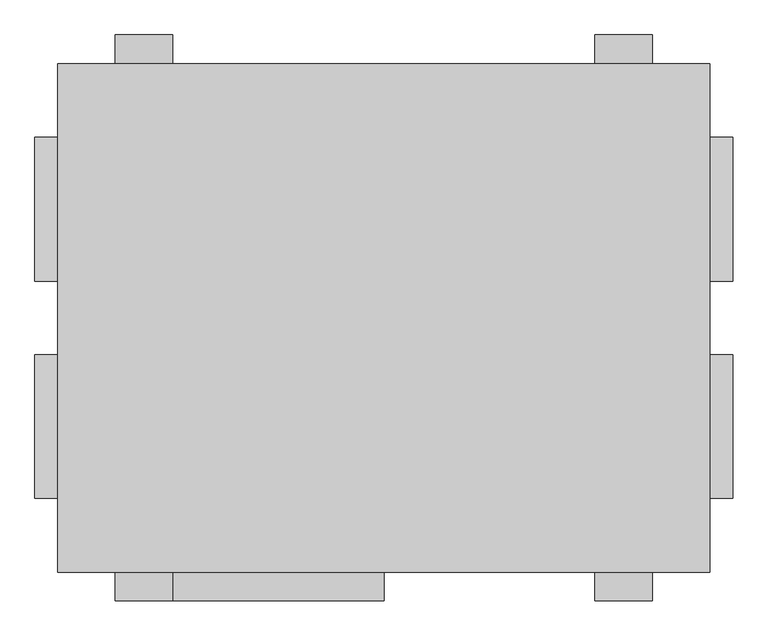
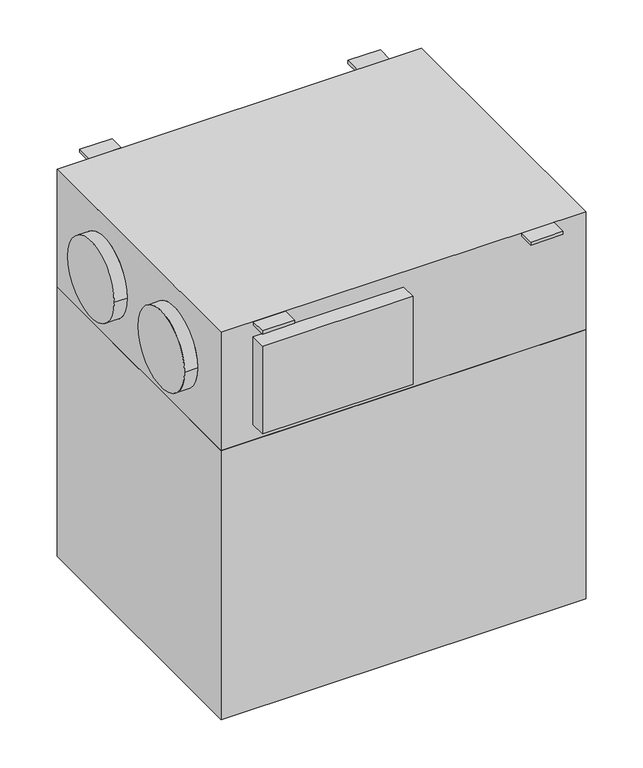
"""IFC4 building model written with IfcOpenShell, lengths in millimetres: proxy geometry, ADSK_КПВУ RONA SRME_круглая : Rona SRME 910 H1."""

from ifc_helpers import new_model, si_unit, frame, origin, place, context, project, spatial, polyline, circle_curve, outline, extrude, source, transform, mapped, element, save
from ifc_brep_helpers import plane_surface, cylinder_surface, advanced_brep


def mechanical_equipment_174d14ef(model_context):
    return source(origin(), model_context, "Body", "SolidModel", [
        extrude(outline(polyline([(833.0, 442.0), (833.0, -442.0), (-301.0, -442.0), (-301.0, 442.0), (833.0, 442.0)])), frame((0.0, 0.0, -1122.0), z_axis=(0.0, 0.0, 1.0), x_axis=(1.0, 0.0, 0.0)), (0.0, 0.0, 1.0), 884.0),
        advanced_brep(
        [(833.0, -442.0, 150.0), (833.0, -442.0, -238.0), (833.0, 442.0, -238.0), (833.0, 442.0, 150.0), (833.0, -64.0, -44.0), (833.0, -314.0, -44.0), (833.0, 314.0, -44.0), (833.0, 64.0, -44.0), (-301.0, -442.0, 150.0), (-301.0, 442.0, 150.0), (-301.0, 442.0, -238.0), (-301.0, -442.0, -238.0), (-301.0, -64.0, -44.0), (-301.0, -314.0, -44.0), (-301.0, 64.0, -44.0), (-301.0, 314.0, -44.0), (-341.0, -314.0, -44.0), (-341.0, -64.0, -44.0), (-341.0, 64.0, -44.0), (-341.0, 314.0, -44.0), (-201.0, -442.0, 100.0), (266.0, -442.0, 100.0), (266.0, -442.0, -188.0), (-201.0, -442.0, -188.0), (873.0, -314.0, -44.0), (873.0, -64.0, -44.0), (873.0, 64.0, -44.0), (873.0, 314.0, -44.0), (-201.0, -492.0, 100.0), (266.0, -492.0, 100.0), (266.0, -492.0, -188.0), (-201.0, -492.0, -188.0)],
        [
            (0, 1),
            (1, 2),
            (2, 3),
            (3, 0),
            (4, 5, circle_curve(frame((833.0, -189.0, -44.0), z_axis=(-1.0, 0.0, 0.0), x_axis=(0.0, 1.0, 0.0)), 125.0)),
            (5, 4, circle_curve(frame((833.0, -189.0, -44.0), z_axis=(-1.0, 0.0, 0.0), x_axis=(0.0, 1.0, 0.0)), 125.0)),
            (6, 7, circle_curve(frame((833.0, 189.0, -44.0), z_axis=(-1.0, 0.0, 0.0), x_axis=(0.0, 1.0, 0.0)), 125.0)),
            (7, 6, circle_curve(frame((833.0, 189.0, -44.0), z_axis=(-1.0, 0.0, 0.0), x_axis=(0.0, 1.0, 0.0)), 125.0)),
            (8, 9),
            (9, 10),
            (10, 11),
            (11, 8),
            (12, 13, circle_curve(frame((-301.0, -189.0, -44.0), z_axis=(1.0, 0.0, 0.0), x_axis=(0.0, 1.0, 0.0)), 125.0)),
            (13, 12, circle_curve(frame((-301.0, -189.0, -44.0), z_axis=(1.0, 0.0, 0.0), x_axis=(0.0, 1.0, 0.0)), 125.0)),
            (14, 15, circle_curve(frame((-301.0, 189.0, -44.0), z_axis=(1.0, 0.0, 0.0), x_axis=(0.0, 1.0, 0.0)), 125.0)),
            (15, 14, circle_curve(frame((-301.0, 189.0, -44.0), z_axis=(1.0, 0.0, 0.0), x_axis=(0.0, 1.0, 0.0)), 125.0)),
            (16, 17, circle_curve(frame((-341.0, -189.0, -44.0), z_axis=(-1.0, 0.0, 0.0), x_axis=(0.0, 1.0, 0.0)), 125.0)),
            (17, 16, circle_curve(frame((-341.0, -189.0, -44.0), z_axis=(-1.0, 0.0, 0.0), x_axis=(0.0, 1.0, 0.0)), 125.0)),
            (18, 19, circle_curve(frame((-341.0, 189.0, -44.0), z_axis=(-1.0, 0.0, 0.0), x_axis=(0.0, 1.0, 0.0)), 125.0)),
            (19, 18, circle_curve(frame((-341.0, 189.0, -44.0), z_axis=(-1.0, 0.0, 0.0), x_axis=(0.0, 1.0, 0.0)), 125.0)),
            (0, 8),
            (11, 1),
            (20, 21),
            (21, 22),
            (22, 23),
            (23, 20),
            (10, 2),
            (9, 3),
            (16, 13),
            (12, 17),
            (24, 25, circle_curve(frame((873.0, -189.0, -44.0), z_axis=(1.0, 0.0, 0.0), x_axis=(0.0, 1.0, 0.0)), 125.0)),
            (25, 24, circle_curve(frame((873.0, -189.0, -44.0), z_axis=(1.0, 0.0, 0.0), x_axis=(0.0, 1.0, 0.0)), 125.0)),
            (26, 27, circle_curve(frame((873.0, 189.0, -44.0), z_axis=(1.0, 0.0, 0.0), x_axis=(0.0, 1.0, 0.0)), 125.0)),
            (27, 26, circle_curve(frame((873.0, 189.0, -44.0), z_axis=(1.0, 0.0, 0.0), x_axis=(0.0, 1.0, 0.0)), 125.0)),
            (24, 5),
            (4, 25),
            (19, 15),
            (14, 18),
            (26, 7),
            (6, 27),
            (20, 28),
            (28, 29),
            (29, 21),
            (22, 30),
            (30, 31),
            (31, 23),
            (31, 28),
            (30, 29),
        ],
        [
            plane_surface(frame((833.0, -442.0, 150.0), z_axis=(1.0, 0.0, 0.0), x_axis=(0.0, 0.0, -1.0))),
            plane_surface(frame((-301.0, -442.0, 150.0), z_axis=(-1.0, 0.0, 0.0), x_axis=(0.0, 0.0, 1.0))),
            plane_surface(frame((-341.0, -64.0, -44.0), z_axis=(-1.0, 0.0, 0.0), x_axis=(0.0, 0.0, -1.0))),
            plane_surface(frame((833.0, -442.0, 150.0), z_axis=(0.0, -1.0, 0.0), x_axis=(-1.0, 0.0, 0.0))),
            plane_surface(frame((833.0, -442.0, -238.0), z_axis=(0.0, 0.0, -1.0), x_axis=(-1.0, 0.0, 0.0))),
            plane_surface(frame((833.0, 442.0, -238.0), z_axis=(0.0, 1.0, 0.0), x_axis=(-1.0, 0.0, 0.0))),
            plane_surface(frame((833.0, 442.0, 150.0), z_axis=(0.0, 0.0, 1.0), x_axis=(-1.0, 0.0, 0.0))),
            cylinder_surface(frame((-341.0, -189.0, -44.0), z_axis=(1.0, 0.0, 0.0), x_axis=(0.0, 1.0, 0.0)), 125.0),
            plane_surface(frame((873.0, -64.0, -44.0), z_axis=(1.0, 0.0, 0.0), x_axis=(0.0, 0.0, 1.0))),
            cylinder_surface(frame((833.0, -189.0, -44.0), z_axis=(1.0, 0.0, 0.0), x_axis=(0.0, 1.0, 0.0)), 125.0),
            cylinder_surface(frame((-341.0, 189.0, -44.0), z_axis=(1.0, 0.0, 0.0), x_axis=(0.0, 1.0, 0.0)), 125.0),
            cylinder_surface(frame((833.0, 189.0, -44.0), z_axis=(1.0, 0.0, 0.0), x_axis=(0.0, 1.0, 0.0)), 125.0),
            plane_surface(frame((-201.0, -442.0, 100.0), z_axis=(0.0, 0.0, 1.0), x_axis=(-1.0, 0.0, 0.0))),
            plane_surface(frame((-201.0, -442.0, -188.0), z_axis=(0.0, 0.0, -1.0), x_axis=(1.0, 0.0, 0.0))),
            plane_surface(frame((-201.0, -442.0, 100.0), z_axis=(-1.0, 0.0, 0.0), x_axis=(0.0, 0.0, -1.0))),
            plane_surface(frame((-201.0, -492.0, 100.0), z_axis=(0.0, -1.0, 0.0), x_axis=(0.0, 0.0, -1.0))),
            plane_surface(frame((266.0, -492.0, 100.0), z_axis=(1.0, 0.0, 0.0), x_axis=(0.0, 0.0, -1.0))),
        ],
        [
            (0, [[1, 2, 3, 4], [5, 6], [7, 8]]),
            (1, [[9, 10, 11, 12], [13, 14], [15, 16]]),
            (2, [[17, 18]]),
            (2, [[19, 20]]),
            (3, [[-1, 21, -12, 22], [23, 24, 25, 26]]),
            (4, [[-2, -22, -11, 27]]),
            (5, [[-3, -27, -10, 28]]),
            (6, [[-4, -28, -9, -21]]),
            (7, [[-17, 29, -13, 30]]),
            (7, [[-18, -30, -14, -29]]),
            (8, [[31, 32]]),
            (8, [[33, 34]]),
            (9, [[-31, 35, -5, 36]]),
            (9, [[-32, -36, -6, -35]]),
            (10, [[-20, 37, -15, 38]]),
            (10, [[-19, -38, -16, -37]]),
            (11, [[-33, 39, -7, 40]]),
            (11, [[-34, -40, -8, -39]]),
            (12, [[41, 42, 43, -23]]),
            (13, [[44, 45, 46, -25]]),
            (14, [[-41, -26, -46, 47]]),
            (15, [[-42, -47, -45, 48]]),
            (16, [[-43, -48, -44, -24]]),
        ],
    ),
        extrude(outline(polyline([(-101.0, 492.0), (-101.0, 442.0), (-201.0, 442.0), (-201.0, 492.0), (-101.0, 492.0)])), frame((0.0, 0.0, 140.0), z_axis=(0.0, 0.0, 1.0), x_axis=(1.0, 0.0, 0.0)), (0.0, 0.0, 1.0), 10.0),
        extrude(outline(polyline([(633.0, 492.0), (733.0, 492.0), (733.0, 442.0), (633.0, 442.0), (633.0, 492.0)])), frame((0.0, 0.0, 140.0), z_axis=(0.0, 0.0, 1.0), x_axis=(1.0, 0.0, 0.0)), (0.0, 0.0, 1.0), 10.0),
        extrude(outline(polyline([(-101.0, -492.0), (-201.0, -492.0), (-201.0, -442.0), (-101.0, -442.0), (-101.0, -492.0)])), frame((0.0, 0.0, 140.0), z_axis=(0.0, 0.0, 1.0), x_axis=(1.0, 0.0, 0.0)), (0.0, 0.0, 1.0), 10.0),
        extrude(outline(polyline([(633.0, -492.0), (633.0, -442.0), (733.0, -442.0), (733.0, -492.0), (633.0, -492.0)])), frame((0.0, 0.0, 140.0), z_axis=(0.0, 0.0, 1.0), x_axis=(1.0, 0.0, 0.0)), (0.0, 0.0, 1.0), 10.0),
    ])


if __name__ == "__main__":
    model = new_model("IFC4")
    model_context = context("Model", 3, world=origin())
    ifc_project = project(units=[si_unit("LENGTHUNIT", "METRE", prefix="MILLI")], contexts=[model_context])
    site = spatial("IfcSite", under=ifc_project)
    building = spatial("IfcBuilding", under=site)
    placement = place(None, origin())
    mechanical_equipment_shape = mechanical_equipment_174d14ef(model_context)
    element("IfcBuildingElementProxy", 1, Name="ADSK_КПВУ RONA SRME_круглая : Rona SRME 910 H1", ObjectType="ADSK_КПВУ RONA SRME_круглая : Rona SRME 910 H1", at=placement, inside=building, context=model_context, shape_type="MappedRepresentation", body=[
        mapped(mechanical_equipment_shape, transform((0.0, 0.0, 0.0), x_axis=(1.0, 0.0, 0.0), y_axis=(0.0, 1.0, 0.0), z_axis=(0.0, 0.0, 1.0))),
    ])
    save(model, "model.ifc")
